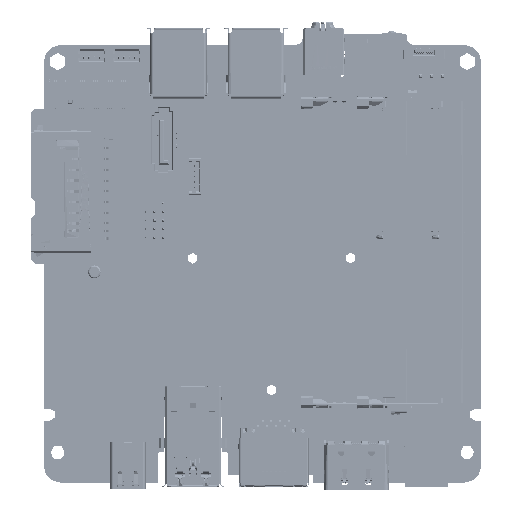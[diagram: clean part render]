
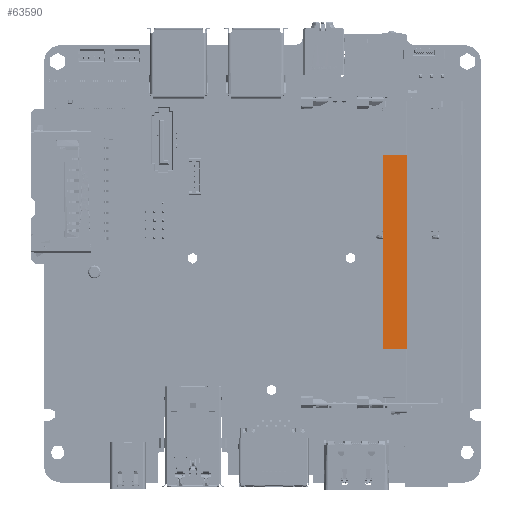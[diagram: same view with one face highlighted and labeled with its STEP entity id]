
A CAD part, front view. The second image highlights one B-rep face of the part: STEP entity #63590.
In plain terms, the highlighted planar face has unit normal (0, -1, 0).
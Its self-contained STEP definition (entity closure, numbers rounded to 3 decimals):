
#1468 = CARTESIAN_POINT ( 'NONE',  ( 33.425, 5.6, 1.17 ) ) ;
#2325 = VECTOR ( 'NONE', #591836, 1000. ) ;
#12187 = ORIENTED_EDGE ( 'NONE', *, *, #32413, .F. ) ;
#18900 = ORIENTED_EDGE ( 'NONE', *, *, #337092, .F. ) ;
#32413 = EDGE_CURVE ( 'NONE', #63857, #209396, #168859, .T. ) ;
#39810 = LINE ( 'NONE', #344845, #174550 ) ;
#58285 = LINE ( 'NONE', #1468, #74308 ) ;
#60692 = VECTOR ( 'NONE', #595023, 1000. ) ;
#63590 = ADVANCED_FACE ( 'NONE', ( #482555 ), #550769, .T. ) ;
#63857 = VERTEX_POINT ( 'NONE', #566070 ) ;
#74308 = VECTOR ( 'NONE', #355971, 1000. ) ;
#107366 = CARTESIAN_POINT ( 'NONE',  ( 28.075, 5.6, -21.33 ) ) ;
#140105 = ORIENTED_EDGE ( 'NONE', *, *, #631659, .T. ) ;
#168859 = LINE ( 'NONE', #640706, #2325 ) ;
#174550 = VECTOR ( 'NONE', #446473, 1000. ) ;
#209396 = VERTEX_POINT ( 'NONE', #272298 ) ;
#214294 = AXIS2_PLACEMENT_3D ( 'NONE', #499883, #296147, #247518 ) ;
#247518 = DIRECTION ( 'NONE',  ( -1., 0., 0. ) ) ;
#272298 = CARTESIAN_POINT ( 'NONE',  ( 33.425, 5.6, 23.67 ) ) ;
#296147 = DIRECTION ( 'NONE',  ( 0., -1., 0. ) ) ;
#337092 = EDGE_CURVE ( 'NONE', #209396, #375065, #58285, .T. ) ;
#344845 = CARTESIAN_POINT ( 'NONE',  ( 30.75, 5.6, -21.33 ) ) ;
#355971 = DIRECTION ( 'NONE',  ( 0., 0., -1. ) ) ;
#375065 = VERTEX_POINT ( 'NONE', #593546 ) ;
#405225 = VERTEX_POINT ( 'NONE', #107366 ) ;
#442118 = CARTESIAN_POINT ( 'NONE',  ( 28.075, 5.6, 1.17 ) ) ;
#446473 = DIRECTION ( 'NONE',  ( 1., 0., 0. ) ) ;
#448956 = LINE ( 'NONE', #442118, #60692 ) ;
#482555 = FACE_OUTER_BOUND ( 'NONE', #579386, .T. ) ;
#499883 = CARTESIAN_POINT ( 'NONE',  ( 33.532, 5.6, 24.57 ) ) ;
#501977 = EDGE_CURVE ( 'NONE', #405225, #63857, #448956, .T. ) ;
#550769 = PLANE ( 'NONE',  #214294 ) ;
#566070 = CARTESIAN_POINT ( 'NONE',  ( 28.075, 5.6, 23.67 ) ) ;
#579386 = EDGE_LOOP ( 'NONE', ( #625223, #140105, #18900, #12187 ) ) ;
#591836 = DIRECTION ( 'NONE',  ( 1., 0., 0. ) ) ;
#593546 = CARTESIAN_POINT ( 'NONE',  ( 33.425, 5.6, -21.33 ) ) ;
#595023 = DIRECTION ( 'NONE',  ( 0., 0., 1. ) ) ;
#625223 = ORIENTED_EDGE ( 'NONE', *, *, #501977, .F. ) ;
#631659 = EDGE_CURVE ( 'NONE', #405225, #375065, #39810, .T. ) ;
#640706 = CARTESIAN_POINT ( 'NONE',  ( 30.75, 5.6, 23.67 ) ) ;
